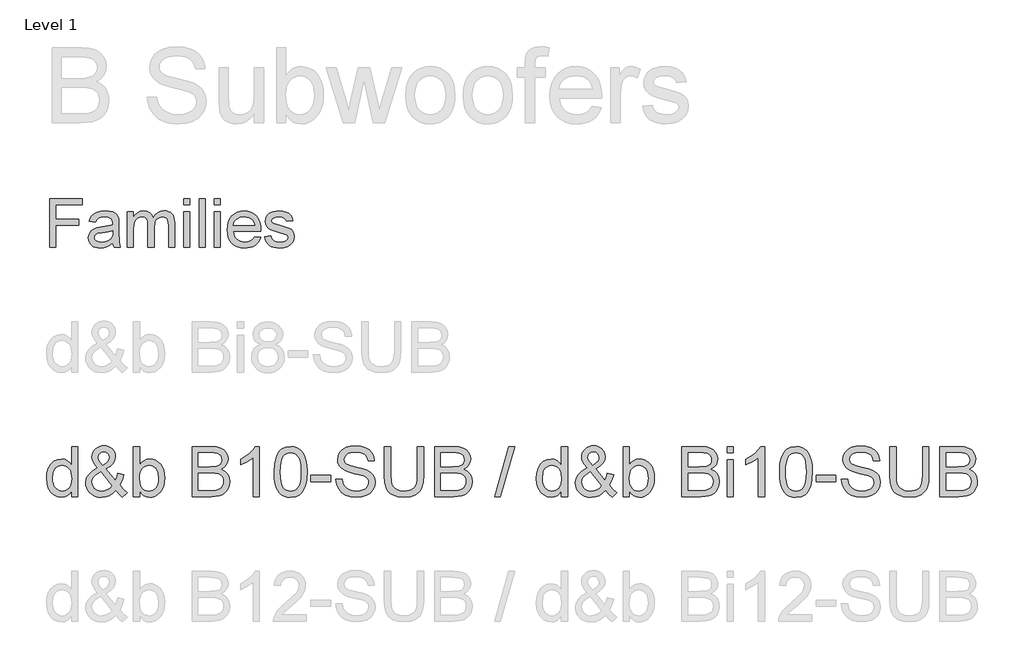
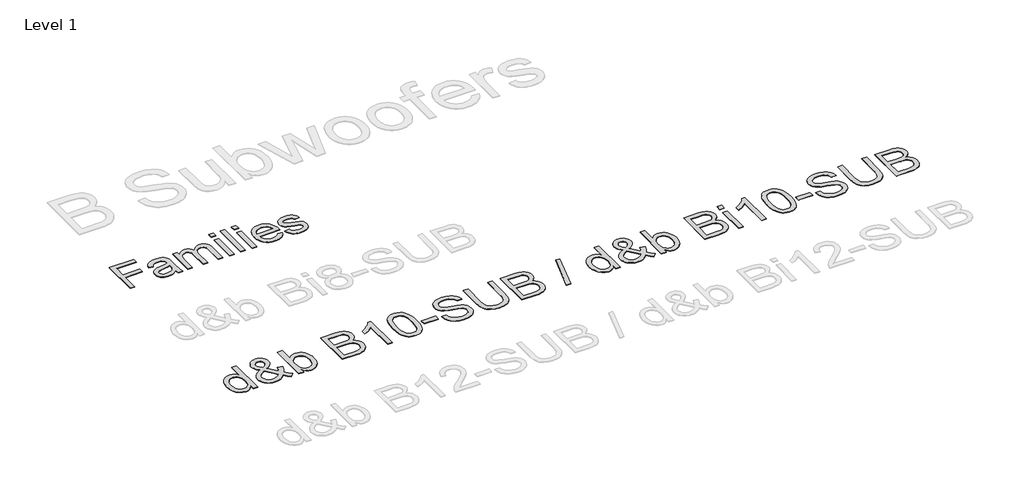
# One storey, part 4 of 55: 2 proxies.
"""IFC4 building model written with IfcOpenShell, lengths in millimetres."""

from ifc_helpers import new_model, si_unit, origin, origin_with_axes, place, context, project, spatial, polyline, outline, extrude, element, save

model = new_model("IFC4")

# Units and contexts
model_context = context("Model", 3, world=origin())
ifc_project = project(units=[si_unit("LENGTHUNIT", "METRE", prefix="MILLI")], contexts=[model_context])

# Site, building, storey
site = spatial("IfcSite", under=ifc_project)
building = spatial("IfcBuilding", under=site)
storey = spatial("IfcBuildingStorey", under=building, Name="Level 1", Elevation=0.0)

# Proxies
placement = place(None, origin())
element("IfcBuildingElementProxy", 1, Name="400mm Arial", ObjectType="400mm Arial", at=placement, inside=storey, context=model_context, shape_type="SweptSolid", body=[
    extrude(outline(polyline([(-21056.720891, -35148.6945164), (-21056.720891, -34756.9369407), (-20793.5087698, -34756.9369407), (-20793.5087698, -34805.9066376), (-21007.7511941, -34805.9066376), (-21007.7511941, -34922.2096679), (-20824.1148304, -34922.2096679), (-20824.1148304, -34971.1793649), (-21007.7511941, -34971.1793649), (-21007.7511941, -35148.6945164), (-21056.720891, -35148.6945164)])), origin_with_axes(), (0.0, 0.0, 1.0), 5.0),
    extrude(outline(polyline([(-20548.660285, -35111.9672437), (-20572.0571836, -35132.02856), (-20596.1475009, -35145.1556907), (-20621.4811893, -35152.4007191), (-20648.6082016, -35154.8157285), (-20670.4120309, -35153.3631362), (-20689.5318522, -35149.0053592), (-20705.9676654, -35141.7423976), (-20719.7194706, -35131.5742513), (-20730.5780466, -35119.1465169), (-20738.3341723, -35105.104791), (-20742.9878477, -35089.4490737), (-20744.5390729, -35072.1793649), (-20742.1957963, -35051.8789388), (-20735.1659668, -35033.4435695), (-20724.3223352, -35017.6623195), (-20710.5376524, -35005.3242513), (-20676.2493001, -34989.2560695), (-20633.879035, -34981.8914861), (-20583.8094327, -34974.144327), (-20548.9472168, -34965.0581528), (-20548.660285, -34954.1547437), (-20552.0317338, -34932.3001035), (-20562.1460804, -34918.0013346), (-20584.7658721, -34907.3848573), (-20616.2805501, -34903.8460316), (-20645.4519516, -34906.2012636), (-20665.8241107, -34913.2669596), (-20679.7163929, -34926.3343128), (-20689.4481638, -34946.6945164), (-20738.4178607, -34940.5733043), (-20729.9175056, -34913.7930013), (-20717.2327282, -34892.7513346), (-20699.1799346, -34876.6592418), (-20674.5755312, -34864.7276604), (-20644.4835568, -34857.339166), (-20609.9680501, -34854.8763346), (-20576.8632916, -34857.0522342), (-20550.6209857, -34863.5799331), (-20530.8346458, -34873.3953924), (-20517.097785, -34885.4345732), (-20507.9876997, -34900.3191613), (-20502.0816865, -34918.6708422), (-20499.690588, -34961.519327), (-20499.690588, -35022.4445164), (-20497.2038456, -35107.5198005), (-20487.4481638, -35148.6945164), (-20536.4178607, -35148.6945164), (-20544.2606638, -35131.6698952), (-20548.660285, -35111.9672437)]), holes=[polyline([(-20548.660285, -35014.0278498), (-20581.5618001, -35022.1814956), (-20627.6621789, -35029.0439482), (-20669.7933342, -35036.9823952), (-20680.7565208, -35042.4101888), (-20688.8743001, -35049.894327), (-20693.8956069, -35058.8609464), (-20695.5693759, -35068.7361831), (-20691.9229507, -35083.2979729), (-20680.9836751, -35095.2295543), (-20662.990659, -35103.1919123), (-20638.1830122, -35105.8460316), (-20611.8809289, -35102.9169359), (-20588.6394516, -35094.129649), (-20569.7975956, -35081.1818507), (-20556.6943759, -35065.771221), (-20550.8840066, -35049.894327), (-20548.9472168, -35027.896221), (-20548.660285, -35014.0278498)])]), origin_with_axes(), (0.0, 0.0, 1.0), 5.0),
    extrude(outline(polyline([(-20432.3572547, -35148.6945164), (-20432.3572547, -34860.9975467), (-20383.3875577, -34860.9975467), (-20383.3875577, -34908.3412967), (-20368.658391, -34886.594256), (-20349.720891, -34869.5576793), (-20327.2206543, -34858.5466708), (-20301.8032774, -34854.8763346), (-20274.5686657, -34858.6184037), (-20252.7379365, -34869.8446111), (-20236.4306448, -34887.8137162), (-20225.7663456, -34911.7844785), (-20207.9167954, -34886.8871656), (-20187.5565918, -34869.1033706), (-20164.6857348, -34858.4330936), (-20139.3042244, -34854.8763346), (-20119.7002057, -34856.3558268), (-20102.4932632, -34860.7943034), (-20087.683397, -34868.1917643), (-20075.2706069, -34878.5482096), (-20065.4581365, -34891.9831942), (-20058.4492291, -34908.6162731), (-20054.2438846, -34928.4474461), (-20052.8421032, -34951.4767134), (-20052.8421032, -35148.6945164), (-20101.8118001, -35148.6945164), (-20101.8118001, -34972.5183801), (-20106.3548872, -34931.630596), (-20112.7391202, -34920.3565666), (-20122.8056448, -34911.4975467), (-20135.7534431, -34905.7589104), (-20150.7814971, -34903.8460316), (-20177.3107348, -34908.7477835), (-20198.9382206, -34923.4530392), (-20207.3279874, -34934.7330463), (-20213.320678, -34948.96606), (-20218.1148304, -34986.2911073), (-20218.1148304, -35148.6945164), (-20267.0845274, -35148.6945164), (-20267.0845274, -34967.0666755), (-20269.9179791, -34939.3777551), (-20278.4183342, -34919.6272816), (-20293.3746552, -34907.7913441), (-20315.5760047, -34903.8460316), (-20334.4417717, -34906.4762399), (-20351.8250577, -34914.3668649), (-20366.1716486, -34927.3266187), (-20375.9273304, -34945.1642134), (-20381.5225009, -34969.9120827), (-20383.3875577, -35003.6026604), (-20383.3875577, -35148.6945164), (-20432.3572547, -35148.6945164)])), origin_with_axes(), (0.0, 0.0, 1.0), 5.0),
    extrude(outline(polyline([(-19979.3875577, -34805.9066376), (-19979.3875577, -34756.9369407), (-19930.4178607, -34756.9369407), (-19930.4178607, -34805.9066376), (-19979.3875577, -34805.9066376)])), origin_with_axes(), (0.0, 0.0, 1.0), 5.0),
    extrude(outline(polyline([(-19979.3875577, -35148.6945164), (-19979.3875577, -34860.9975467), (-19930.4178607, -34860.9975467), (-19930.4178607, -35148.6945164), (-19979.3875577, -35148.6945164)])), origin_with_axes(), (0.0, 0.0, 1.0), 5.0),
    extrude(outline(polyline([(-19856.9633153, -35148.6945164), (-19856.9633153, -34756.9369407), (-19807.9936183, -34756.9369407), (-19807.9936183, -35148.6945164), (-19856.9633153, -35148.6945164)])), origin_with_axes(), (0.0, 0.0, 1.0), 5.0),
    extrude(outline(polyline([(-19734.5390729, -34805.9066376), (-19734.5390729, -34756.9369407), (-19685.5693759, -34756.9369407), (-19685.5693759, -34805.9066376), (-19734.5390729, -34805.9066376)])), origin_with_axes(), (0.0, 0.0, 1.0), 5.0),
    extrude(outline(polyline([(-19734.5390729, -35148.6945164), (-19734.5390729, -34860.9975467), (-19685.5693759, -34860.9975467), (-19685.5693759, -35148.6945164), (-19734.5390729, -35148.6945164)])), origin_with_axes(), (0.0, 0.0, 1.0), 5.0),
    extrude(outline(polyline([(-19410.6886941, -35062.9975467), (-19362.6754365, -35069.1187589), (-19370.0370309, -35088.3491684), (-19379.975034, -35105.2960789), (-19392.4894457, -35119.9594904), (-19407.580266, -35132.3394028), (-19425.0920736, -35142.1727953), (-19444.8694469, -35149.1966471), (-19491.220891, -35154.8157285), (-19521.605775, -35152.3917525), (-19548.6789876, -35145.1198242), (-19572.4405288, -35132.9999437), (-19592.8903986, -35116.0321111), (-19609.3351784, -35094.6885683), (-19621.0814497, -35069.4415571), (-19628.1292125, -35040.2910777), (-19630.4784668, -35007.2371301), (-19628.1053015, -34973.062355), (-19620.9858058, -34942.9404918), (-19609.1199796, -34916.8715406), (-19592.5078229, -34894.8555013), (-19572.1117528, -34877.3646159), (-19548.8941865, -34864.8711263), (-19522.855124, -34857.3750325), (-19493.9945653, -34854.8763346), (-19466.0635461, -34857.3690548), (-19440.8045795, -34864.8472153), (-19418.2176654, -34877.3108161), (-19398.3028039, -34894.7598573), (-19382.0463231, -34916.7280747), (-19370.4345511, -34942.7492039), (-19363.4674879, -34972.8232451), (-19361.1451335, -35006.9501982), (-19361.4320653, -35020.1490619), (-19581.5087698, -35020.1490619), (-19578.6723292, -35039.6903142), (-19573.0323257, -35056.8046017), (-19564.5887592, -35071.4919241), (-19553.3416297, -35083.7522816), (-19524.9234242, -35100.3225941), (-19490.2644516, -35105.8460316), (-19464.2014782, -35103.2875562), (-19442.2511941, -35095.6121301), (-19424.4135994, -35082.3415335), (-19410.6886941, -35062.9975467)]), holes=[polyline([(-19581.5087698, -34971.1793649), (-19410.1148304, -34971.1793649), (-19416.7381732, -34945.3076793), (-19429.721838, -34926.800577), (-19443.076123, -34916.7579634), (-19458.2715539, -34909.5846679), (-19494.1858532, -34903.8460316), (-19527.1949677, -34908.4249852), (-19554.4893569, -34922.161846), (-19573.4627234, -34943.5741329), (-19581.5087698, -34971.1793649)])]), origin_with_axes(), (0.0, 0.0, 1.0), 5.0),
    extrude(outline(polyline([(-19330.5390729, -35062.9975467), (-19281.5693759, -35056.8763346), (-19273.8461278, -35077.8223573), (-19258.9017622, -35093.2210316), (-19236.6406354, -35102.6897816), (-19206.9671032, -35105.8460316), (-19177.6522357, -35102.9528024), (-19157.0409668, -35094.2731149), (-19144.8463645, -35081.6959369), (-19140.7814971, -35067.1102361), (-19144.8702755, -35054.628702), (-19157.1366107, -35045.1121301), (-19207.5409668, -35031.1481149), (-19281.2824441, -35007.1893081), (-19299.9449677, -34995.1501272), (-19313.4666297, -34979.2134558), (-19321.680053, -34960.3955107), (-19324.4178607, -34939.7125089), (-19322.2180501, -34920.7391424), (-19315.6186183, -34903.224346), (-19305.2173399, -34887.8615382), (-19291.6119895, -34875.3441376), (-19260.4798872, -34860.8540808), (-19218.3487319, -34854.8763346), (-19186.4753891, -34857.2793886), (-19158.7625577, -34864.4885505), (-19136.4775198, -34875.7984464), (-19120.8875577, -34890.503702), (-19110.5580122, -34909.6922674), (-19104.0542244, -34934.4520922), (-19153.0239213, -34940.5733043), (-19159.2049109, -34925.1626746), (-19171.4353797, -34913.5538914), (-19189.8348825, -34906.2729965), (-19214.5229744, -34903.8460316), (-19242.6422925, -34906.1653971), (-19261.3885047, -34913.1234937), (-19271.933249, -34923.1661073), (-19275.4481638, -34934.739024), (-19269.6138835, -34948.989971), (-19251.345891, -34959.7977361), (-19209.1669138, -34970.2229255), (-19137.2904933, -34993.2731149), (-19118.3051713, -35004.2960789), (-19103.9107585, -35019.3839104), (-19094.8365397, -35038.5844312), (-19091.8118001, -35061.9454634), (-19095.3625814, -35086.0955581), (-19106.0149251, -35108.8109937), (-19123.3623446, -35128.3104018), (-19146.9983532, -35142.8124142), (-19175.5480691, -35151.8149), (-19207.6366107, -35154.8157285), (-19233.9924938, -35153.369114), (-19257.0127944, -35149.0292702), (-19276.6975127, -35141.7961973), (-19293.0466486, -35131.6698952), (-19306.4009336, -35118.6981859), (-19317.1010994, -35102.9288914), (-19325.1471458, -35084.3620117), (-19330.5390729, -35062.9975467)])), origin_with_axes(), (0.0, 0.0, 1.0), 5.0),
])
element("IfcBuildingElementProxy", 2, Name="400mm Arial", ObjectType="400mm Arial", at=placement, inside=storey, context=model_context, shape_type="SweptSolid", body=[
    extrude(outline(polyline([(-20879.8211974, -37148.6945164), (-20879.8211974, -37101.3113154), (-20894.8491769, -37124.7883181), (-20913.0532043, -37141.5576057), (-20934.4332796, -37151.6191783), (-20958.9894028, -37154.9730358), (-20991.4611202, -37150.1169935), (-21021.1859854, -37135.5488665), (-21046.3491139, -37112.2864616), (-21065.1356211, -37081.3475858), (-21076.8342686, -37043.9830379), (-21080.7338177, -37001.4436165), (-21077.1408369, -36959.4314926), (-21066.3618945, -36921.4905962), (-21048.4092531, -36889.7791682), (-21023.2951755, -36866.4554497), (-20992.9203855, -36852.1080519), (-20959.1856065, -36847.325586), (-20934.6110892, -36850.7468885), (-20912.8815261, -36861.0107962), (-20894.4629008, -36876.7438829), (-20879.8211974, -36896.5727224), (-20879.8211974, -36746.8692758), (-20829.5930424, -36746.8692758), (-20829.5930424, -37148.6945164), (-20879.8211974, -37148.6945164)]), holes=[polyline([(-21030.5056627, -37001.2474128), (-21029.089317, -37025.6042665), (-21024.8402799, -37046.6808392), (-21017.7585515, -37064.4771307), (-21007.8441318, -37078.9931411), (-20983.1469871, -37098.3069458), (-20969.2717046, -37103.135397), (-20954.3786151, -37104.7448807), (-20939.415015, -37103.2089734), (-20925.6225058, -37098.6012514), (-20901.5507606, -37080.1703635), (-20892.0440767, -37066.2613584), (-20885.2535882, -37049.1088603), (-20879.8211974, -37005.0733855), (-20885.3516901, -36956.9298951), (-20892.2648059, -36938.3947739), (-20901.9431681, -36923.5507354), (-20913.6448812, -36912.1770504), (-20926.6280499, -36904.0529896), (-20940.8926743, -36899.1785532), (-20956.4387543, -36897.5537411), (-20971.6261493, -36899.1141738), (-20985.5014319, -36903.7954722), (-20998.064602, -36911.5976362), (-21009.3156597, -36922.5206658), (-21018.586286, -36936.8036843), (-21025.2081619, -36954.6858149), (-21030.5056627, -37001.2474128)])]), origin_with_axes(), (0.0, 0.0, 1.0), 5.0),
    extrude(outline(polyline([(-20523.809528, -37099.0549725), (-20549.3405384, -37123.5191252), (-20577.0788409, -37140.99352), (-20607.0734862, -37151.4781569), (-20639.3735254, -37154.9730358), (-20668.6814577, -37152.3855991), (-20694.8010793, -37144.623289), (-20717.7323904, -37131.6861055), (-20737.4753908, -37113.5740486), (-20750.308341, -37096.2038871), (-20759.4747341, -37077.8404442), (-20764.9745699, -37058.4837198), (-20766.8078485, -37038.1337141), (-20760.9094739, -37002.9396699), (-20743.2143499, -36971.3263438), (-20713.796053, -36943.3182613), (-20672.7281596, -36918.9399477), (-20694.6416638, -36890.5885086), (-20707.7995765, -36868.1231814), (-20714.3846642, -36848.9442668), (-20716.5796934, -36830.4520651), (-20714.8506481, -36812.8979626), (-20709.6635119, -36796.5333452), (-20701.018285, -36781.3582129), (-20688.9149674, -36767.3725657), (-20674.1935562, -36755.6555241), (-20657.6940487, -36747.2862088), (-20639.4164449, -36742.2646195), (-20619.3607448, -36740.5907564), (-20600.212487, -36742.1910431), (-20582.8913764, -36746.9919032), (-20567.397413, -36754.9933366), (-20553.7305969, -36766.1953433), (-20542.5715097, -36779.6414302), (-20534.6007332, -36794.3751041), (-20529.8182672, -36810.396365), (-20528.2241119, -36827.7052129), (-20532.9452642, -36855.68877), (-20547.108721, -36881.563137), (-20570.7144823, -36905.3283139), (-20603.7625482, -36926.9843007), (-20531.069066, -37017.5323224), (-20518.6837055, -36991.6579554), (-20509.3885538, -36961.9085647), (-20459.1603987, -36972.7978718), (-20474.6114425, -37019.3226815), (-20494.6732739, -37055.4977443), (-20466.1256311, -37088.8033276), (-20434.0463211, -37116.3209009), (-20471.7174374, -37154.9730358), (-20497.3465498, -37131.52669), (-20523.809528, -37099.0549725)]), holes=[polyline([(-20557.4584678, -37062.8553842), (-20647.1235727, -36950.9211558), (-20681.3733865, -36972.7733463), (-20702.305872, -36993.0068561), (-20713.0112381, -37012.3329235), (-20716.5796934, -37031.4627873), (-20711.6991256, -37055.1543878), (-20697.0574222, -37079.7289051), (-20686.2784798, -37090.6733944), (-20673.4639236, -37098.4908868), (-20658.6137537, -37103.1813823), (-20641.7279702, -37104.7448807), (-20619.0051256, -37101.8263502), (-20595.5710425, -37093.0707588), (-20574.1480476, -37079.6798541), (-20557.4584678, -37062.8553842)]), polyline([(-20629.1709314, -36895.2973981), (-20602.9041569, -36878.6323438), (-20587.8700461, -36864.1500559), (-20580.8067117, -36850.0601755), (-20578.452267, -36834.5723435), (-20581.5547385, -36817.0243723), (-20590.862153, -36803.0325938), (-20604.829406, -36793.8723321), (-20621.9113933, -36790.8189115), (-20639.3612626, -36793.8478066), (-20653.6473468, -36802.9344919), (-20663.1754905, -36816.3867102), (-20666.3515384, -36832.5122043), (-20662.0350563, -36850.9063041), (-20648.9875082, -36871.360543), (-20629.1709314, -36895.2973981)])]), origin_with_axes(), (0.0, 0.0, 1.0), 5.0),
    extrude(outline(polyline([(-20333.590011, -37148.6945164), (-20383.8181661, -37148.6945164), (-20383.8181661, -36746.8692758), (-20333.590011, -36746.8692758), (-20333.590011, -36895.8860093), (-20317.0721094, -36874.6408241), (-20298.4204923, -36859.4656918), (-20277.6351595, -36850.3606124), (-20254.7161112, -36847.325586), (-20228.8417442, -36850.0601755), (-20204.3898543, -36858.263944), (-20182.758393, -36871.4218567), (-20165.3453119, -36889.0188788), (-20151.6968898, -36910.883332), (-20141.3594058, -36936.8435381), (-20134.8478945, -36965.8203766), (-20132.6773907, -36996.734727), (-20134.9245365, -37032.4070178), (-20141.6659741, -37063.7873519), (-20152.9017034, -37090.8757295), (-20168.6317244, -37113.6721505), (-20187.5132678, -37131.7412878), (-20208.2035643, -37144.6478145), (-20230.702614, -37152.3917305), (-20255.0104168, -37154.9730358), (-20278.6836232, -37151.6437038), (-20299.671291, -37141.6557076), (-20317.9734203, -37125.0090473), (-20333.590011, -37101.7037229), (-20333.590011, -37148.6945164)]), holes=[polyline([(-20333.590011, -36999.0891717), (-20330.1564457, -37040.9786682), (-20319.8557498, -37069.3301073), (-20307.6849872, -37084.8240707), (-20293.5399244, -37095.8911874), (-20277.4205617, -37102.5314574), (-20259.3268989, -37104.7448807), (-20244.3050508, -37103.1139372), (-20230.3377977, -37098.2211067), (-20217.4251396, -37090.0663891), (-20205.5670767, -37078.6497845), (-20195.6526569, -37064.0019498), (-20188.5709285, -37046.1535416), (-20184.3218914, -37025.1045601), (-20182.9055458, -37000.8550053), (-20188.3379366, -36954.8942814), (-20195.1284251, -36937.1010555), (-20204.6351089, -36922.7659205), (-20216.0670419, -36911.735592), (-20228.6332778, -36903.8567859), (-20242.3338164, -36899.1295023), (-20257.1686579, -36897.5537411), (-20272.190506, -36899.1846846), (-20286.1577591, -36904.0775151), (-20299.0704171, -36912.2322327), (-20310.9284801, -36923.6488372), (-20320.8428999, -36938.1495192), (-20327.9246283, -36955.556469), (-20332.1736653, -36975.8696865), (-20333.590011, -36999.0891717)])]), origin_with_axes(), (0.0, 0.0, 1.0), 5.0),
    extrude(outline(polyline([(-19912.9292122, -37148.6945164), (-19912.9292122, -36746.8692758), (-19759.5959966, -36746.8692758), (-19717.4244573, -36749.8245945), (-19684.4990187, -36758.6905506), (-19659.2623138, -36773.6878733), (-19640.1569755, -36795.0372917), (-19628.1272343, -36820.1513693), (-19624.1173206, -36846.4426692), (-19627.4895722, -36870.6370417), (-19637.606327, -36893.3844118), (-19654.5411616, -36913.2868277), (-19678.3676521, -36928.946338), (-19649.9058484, -36943.8087706), (-19628.875261, -36966.4212506), (-19615.8890266, -36995.2877244), (-19611.5602818, -37028.9121388), (-19614.5156005, -37056.9324841), (-19623.3815566, -37082.9172157), (-19636.6130457, -37105.0146609), (-19652.6649634, -37121.3731469), (-19672.3221247, -37133.2189472), (-19696.3693444, -37141.7783349), (-19725.5914376, -37146.965471), (-19760.773219, -37148.6945164), (-19912.9292122, -37148.6945164)]), holes=[polyline([(-19862.7010572, -37098.4663614), (-19759.6940985, -37098.4663614), (-19722.4153897, -37096.504324), (-19690.87564, -37085.5659661), (-19679.2996198, -37076.1359242), (-19669.9799426, -37063.2477917), (-19663.8363133, -37047.4779168), (-19661.7884369, -37029.4026481), (-19664.1919326, -37008.4088489), (-19671.4024197, -36990.3581057), (-19683.9962466, -36976.2436998), (-19702.5497619, -36967.0589127), (-19728.8287991, -36962.0189293), (-19764.5991918, -36960.3389349), (-19862.7010572, -36960.3389349), (-19862.7010572, -37098.4663614)]), polyline([(-19862.7010572, -36910.1107798), (-19770.975813, -36910.1107798), (-19717.4121945, -36905.7942977), (-19698.6624755, -36898.3508187), (-19685.1857318, -36887.2039943), (-19677.0555397, -36872.5255026), (-19674.3454756, -36854.4870222), (-19676.8715987, -36836.9758392), (-19684.4499678, -36821.7209991), (-19696.7372264, -36809.8138852), (-19713.3900181, -36802.3458807), (-19738.945554, -36798.4095434), (-19777.9410455, -36797.0974309), (-19862.7010572, -36797.0974309), (-19862.7010572, -36910.1107798)])]), origin_with_axes(), (0.0, 0.0, 1.0), 5.0),
    extrude(outline(polyline([(-19372.9765452, -37148.6945164), (-19423.2047003, -37148.6945164), (-19423.2047003, -36835.5533621), (-19444.173974, -36852.5127221), (-19470.784105, -36869.4475566), (-19523.6610104, -36894.8068888), (-19523.6610104, -36847.325586), (-19484.2117978, -36825.8658029), (-19450.0355604, -36800.3347925), (-19423.0943357, -36773.1851012), (-19405.3501608, -36746.8692758), (-19372.9765452, -36746.8692758), (-19372.9765452, -37148.6945164)])), origin_with_axes(), (0.0, 0.0, 1.0), 5.0),
    extrude(outline(polyline([(-19253.6846769, -36951.0192577), (-19249.9935942, -36886.7012222), (-19238.9203461, -36835.4062093), (-19220.5752973, -36796.3494042), (-19208.7172343, -36781.1160239), (-19195.0688123, -36768.7459918), (-19179.584046, -36759.1749286), (-19162.2169501, -36752.3384548), (-19121.8357698, -36746.8692758), (-19090.8846313, -36750.1066374), (-19063.1708543, -36759.8187221), (-19039.9942886, -36775.6253851), (-19022.6547839, -36797.1464818), (-19009.5581849, -36824.1980712), (-18999.1103362, -36856.5962123), (-18992.2677311, -36897.7376821), (-18989.9868627, -36951.0192577), (-18993.6411572, -37014.9694112), (-19004.6040407, -37066.1417967), (-19022.8387249, -37105.2353901), (-19034.6691967, -37120.5147556), (-19048.3084217, -37132.949167), (-19063.8115821, -37142.5846096), (-19081.2338603, -37149.4670686), (-19121.8357698, -37154.9730358), (-19149.5004958, -37152.5818028), (-19174.0259622, -37145.4081039), (-19195.4121688, -37133.4519391), (-19213.6591158, -37116.7133083), (-19231.1702988, -37086.4550142), (-19243.6782866, -37048.7532411), (-19251.1830793, -37003.6079889), (-19253.6846769, -36951.0192577)]), holes=[polyline([(-19203.4565218, -36950.9211558), (-19201.9849938, -36994.585683), (-19197.5704099, -37029.9299457), (-19190.21277, -37056.9539439), (-19179.9120741, -37075.6576777), (-19167.4531372, -37088.383329), (-19153.6207742, -37097.47308), (-19138.4149851, -37102.9269305), (-19121.8357698, -37104.7448807), (-19105.2565546, -37102.9207992), (-19090.0507654, -37097.4485545), (-19076.2184024, -37088.3281467), (-19063.7594655, -37075.5595758), (-19053.4587696, -37056.8251852), (-19046.1011297, -37029.8073183), (-19041.6865458, -36994.5059752), (-19040.2150178, -36950.9211558), (-19041.6374949, -36908.4123913), (-19045.904926, -36873.6904623), (-19053.0173112, -36846.7553689), (-19062.9746506, -36827.607111), (-19075.225121, -36814.259126), (-19089.2168996, -36804.7248509), (-19104.9499862, -36799.0042859), (-19122.424381, -36797.0974309), (-19138.9177571, -36798.7774253), (-19153.8660289, -36803.8174087), (-19167.2691962, -36812.2173809), (-19179.1272592, -36823.977342), (-19189.7713116, -36844.8239884), (-19197.3742062, -36872.9301728), (-19201.9359429, -36908.2958953), (-19203.4565218, -36950.9211558)])]), origin_with_axes(), (0.0, 0.0, 1.0), 5.0),
    extrude(outline(polyline([(-18958.5942658, -37029.4026481), (-18958.5942658, -36979.174493), (-18801.6312812, -36979.174493), (-18801.6312812, -37029.4026481), (-18958.5942658, -37029.4026481)])), origin_with_axes(), (0.0, 0.0, 1.0), 5.0),
    extrude(outline(polyline([(-18757.6816455, -37010.56709), (-18707.4534904, -37010.56709), (-18701.6900059, -37038.4402825), (-18691.2666827, -37060.844296), (-18675.0062985, -37078.6252591), (-18651.7316309, -37092.6293004), (-18623.2820899, -37101.7159856), (-18591.4970856, -37104.7448807), (-18563.5135285, -37102.4517496), (-18539.0125876, -37095.5723563), (-18519.1592226, -37084.6830493), (-18505.1183931, -37070.3601769), (-18496.7674718, -37053.9158517), (-18493.9838314, -37036.6621862), (-18496.068496, -37019.849979), (-18502.3224899, -37005.3186402), (-18515.0266815, -36992.9210169), (-18536.4619391, -36982.5099565), (-18609.5968797, -36963.3310418), (-18657.6054801, -36950.639113), (-18688.3236267, -36938.5603208), (-18713.3273396, -36921.6622745), (-18731.0469891, -36901.1835101), (-18741.6052023, -36877.565486), (-18745.1246067, -36851.2496606), (-18740.7713365, -36821.8313637), (-18727.7115256, -36794.3996296), (-18706.2885308, -36771.1494875), (-18676.8457084, -36754.2759667), (-18641.5045114, -36744.012059), (-18602.3863926, -36740.5907564), (-18560.0063868, -36744.1714745), (-18522.9238817, -36754.9136288), (-18492.4632525, -36772.59649), (-18469.9488744, -36796.999329), (-18455.6995784, -36826.6015669), (-18450.0341957, -36859.8826247), (-18500.2623508, -36859.8826247), (-18509.4839261, -36829.9125049), (-18517.8471101, -36818.0544419), (-18528.7118917, -36808.2810436), (-18558.755588, -36795.1844445), (-18600.4243553, -36790.8189115), (-18643.0741413, -36795.1353936), (-18659.377445, -36800.5309962), (-18672.3330226, -36808.0848398), (-18689.2555944, -36827.1411272), (-18694.8964517, -36849.7781326), (-18690.8988007, -36869.0796746), (-18678.9058476, -36884.6042948), (-18650.5544085, -36898.4857088), (-18596.8926882, -36912.6614283), (-18541.5141852, -36926.1259093), (-18508.0123981, -36937.8736077), (-18479.3789162, -36956.0960292), (-18459.4029238, -36978.5858819), (-18447.6674882, -37005.097911), (-18443.7556763, -37035.3868619), (-18448.2560994, -37066.3502632), (-18461.7573686, -37095.4742545), (-18483.707661, -37120.5392811), (-18513.5551535, -37139.3257883), (-18549.4481735, -37151.0612239), (-18589.5350483, -37154.9730358), (-18638.7453965, -37150.7546556), (-18679.2492041, -37138.099515), (-18711.5124551, -37116.958563), (-18736.0011333, -37087.2827487), (-18751.7219572, -37051.1322113), (-18757.6816455, -37010.56709)])), origin_with_axes(), (0.0, 0.0, 1.0), 5.0),
    extrude(outline(polyline([(-18104.7156295, -36746.8692758), (-18054.4874745, -36746.8692758), (-18054.4874745, -36978.6839837), (-18057.8965143, -37032.9711035), (-18068.1236338, -37074.7747609), (-18076.3090082, -37091.7279895), (-18087.228972, -37107.0257491), (-18117.2726683, -37132.6548614), (-18136.4147948, -37142.4190627), (-18158.328299, -37149.3934922), (-18210.4694404, -37154.9730358), (-18261.4701477, -37150.1169935), (-18302.2437355, -37135.5488665), (-18318.7984253, -37124.7484642), (-18332.8024666, -37111.7714268), (-18344.2558593, -37096.6177543), (-18353.1586036, -37079.2874467), (-18364.5997337, -37035.7179557), (-18368.4134437, -36978.6839837), (-18368.4134437, -36746.8692758), (-18318.1852886, -36746.8692758), (-18318.1852886, -36976.9181501), (-18315.7082165, -37022.057271), (-18308.2770002, -37053.4866561), (-18294.8125192, -37075.2530075), (-18274.2356529, -37091.403027), (-18247.4047927, -37101.4094173), (-18215.17833, -37104.7448807), (-18187.4952098, -37103.0955431), (-18164.0917836, -37098.1475303), (-18144.9680512, -37089.9008422), (-18130.1240127, -37078.3554789), (-18119.0078451, -37062.1196202), (-18111.0677253, -37039.8014459), (-18106.3036535, -37011.4009558), (-18104.7156295, -36976.9181501), (-18104.7156295, -36746.8692758)])), origin_with_axes(), (0.0, 0.0, 1.0), 5.0),
    extrude(outline(polyline([(-17966.5882031, -37148.6945164), (-17966.5882031, -36746.8692758), (-17813.2549875, -36746.8692758), (-17771.0834481, -36749.8245945), (-17738.1580096, -36758.6905506), (-17712.9213047, -36773.6878733), (-17693.8159664, -36795.0372917), (-17681.7862252, -36820.1513693), (-17677.7763114, -36846.4426692), (-17681.148563, -36870.6370417), (-17691.2653179, -36893.3844118), (-17708.2001524, -36913.2868277), (-17732.026643, -36928.946338), (-17703.5648393, -36943.8087706), (-17682.5342519, -36966.4212506), (-17669.5480175, -36995.2877244), (-17665.2192726, -37028.9121388), (-17668.1745913, -37056.9324841), (-17677.0405474, -37082.9172157), (-17690.2720365, -37105.0146609), (-17706.3239542, -37121.3731469), (-17725.9811155, -37133.2189472), (-17750.0283353, -37141.7783349), (-17779.2504284, -37146.965471), (-17814.4322099, -37148.6945164), (-17966.5882031, -37148.6945164)]), holes=[polyline([(-17916.360048, -36910.1107798), (-17824.6348039, -36910.1107798), (-17771.0711854, -36905.7942977), (-17752.3214664, -36898.3508187), (-17738.8447226, -36887.2039943), (-17730.7145305, -36872.5255026), (-17728.0044665, -36854.4870222), (-17730.5305895, -36836.9758392), (-17738.1089586, -36821.7209991), (-17750.3962173, -36809.8138852), (-17767.0490089, -36802.3458807), (-17792.6045448, -36798.4095434), (-17831.6000363, -36797.0974309), (-17916.360048, -36797.0974309), (-17916.360048, -36910.1107798)]), polyline([(-17916.360048, -37098.4663614), (-17813.3530894, -37098.4663614), (-17776.0743805, -37096.504324), (-17744.5346308, -37085.5659661), (-17732.9586107, -37076.1359242), (-17723.6389335, -37063.2477917), (-17717.4953042, -37047.4779168), (-17715.4474277, -37029.4026481), (-17717.8509234, -37008.4088489), (-17725.0614105, -36990.3581057), (-17737.6552375, -36976.2436998), (-17756.2087528, -36967.0589127), (-17782.48779, -36962.0189293), (-17818.2581826, -36960.3389349), (-17916.360048, -36960.3389349), (-17916.360048, -37098.4663614)])]), origin_with_axes(), (0.0, 0.0, 1.0), 5.0),
    extrude(outline(polyline([(-17483.1422105, -37148.6945164), (-17370.1288616, -36746.8692758), (-17324.609596, -36746.8692758), (-17437.7210468, -37148.6945164), (-17483.1422105, -37148.6945164)])), origin_with_axes(), (0.0, 0.0, 1.0), 5.0),
    extrude(outline(polyline([(-16949.4680628, -37148.6945164), (-16949.4680628, -37101.3113154), (-16964.4960423, -37124.7883181), (-16982.7000697, -37141.5576057), (-17004.080145, -37151.6191783), (-17028.6362682, -37154.9730358), (-17061.1079856, -37150.1169935), (-17090.8328508, -37135.5488665), (-17115.9959793, -37112.2864616), (-17134.7824865, -37081.3475858), (-17146.481134, -37043.9830379), (-17150.3806831, -37001.4436165), (-17146.7877023, -36959.4314926), (-17136.0087598, -36921.4905962), (-17118.0561185, -36889.7791682), (-17092.9420409, -36866.4554497), (-17062.5672509, -36852.1080519), (-17028.8324719, -36847.325586), (-17004.2579546, -36850.7468885), (-16982.5283915, -36861.0107962), (-16964.1097662, -36876.7438829), (-16949.4680628, -36896.5727224), (-16949.4680628, -36746.8692758), (-16899.2399078, -36746.8692758), (-16899.2399078, -37148.6945164), (-16949.4680628, -37148.6945164)]), holes=[polyline([(-17100.152528, -37001.2474128), (-17098.7361824, -37025.6042665), (-17094.4871453, -37046.6808392), (-17087.4054169, -37064.4771307), (-17077.4909971, -37078.9931411), (-17052.7938525, -37098.3069458), (-17038.91857, -37103.135397), (-17024.0254805, -37104.7448807), (-17009.0618804, -37103.2089734), (-16995.2693712, -37098.6012514), (-16971.197626, -37080.1703635), (-16961.6909421, -37066.2613584), (-16954.9004536, -37049.1088603), (-16949.4680628, -37005.0733855), (-16954.9985555, -36956.9298951), (-16961.9116713, -36938.3947739), (-16971.5900335, -36923.5507354), (-16983.2917466, -36912.1770504), (-16996.2749153, -36904.0529896), (-17010.5395397, -36899.1785532), (-17026.0856197, -36897.5537411), (-17041.2730147, -36899.1141738), (-17055.1482973, -36903.7954722), (-17067.7114674, -36911.5976362), (-17078.9625251, -36922.5206658), (-17088.2331514, -36936.8036843), (-17094.8550273, -36954.6858149), (-17100.152528, -37001.2474128)])]), origin_with_axes(), (0.0, 0.0, 1.0), 5.0),
    extrude(outline(polyline([(-16593.4563934, -37099.0549725), (-16618.9874038, -37123.5191252), (-16646.7257063, -37140.99352), (-16676.7203516, -37151.4781569), (-16709.0203908, -37154.9730358), (-16738.3283231, -37152.3855991), (-16764.4479447, -37144.623289), (-16787.3792558, -37131.6861055), (-16807.1222562, -37113.5740486), (-16819.9552064, -37096.2038871), (-16829.1215995, -37077.8404442), (-16834.6214353, -37058.4837198), (-16836.4547139, -37038.1337141), (-16830.5563393, -37002.9396699), (-16812.8612153, -36971.3263438), (-16783.4429184, -36943.3182613), (-16742.375025, -36918.9399477), (-16764.2885292, -36890.5885086), (-16777.4464419, -36868.1231814), (-16784.0315296, -36848.9442668), (-16786.2265588, -36830.4520651), (-16784.4975135, -36812.8979626), (-16779.3103773, -36796.5333452), (-16770.6651504, -36781.3582129), (-16758.5618328, -36767.3725657), (-16743.8404216, -36755.6555241), (-16727.3409141, -36747.2862088), (-16709.0633103, -36742.2646195), (-16689.0076102, -36740.5907564), (-16669.8593524, -36742.1910431), (-16652.5382418, -36746.9919032), (-16637.0442784, -36754.9933366), (-16623.3774623, -36766.1953433), (-16612.2183751, -36779.6414302), (-16604.2475986, -36794.3751041), (-16599.4651326, -36810.396365), (-16597.8709773, -36827.7052129), (-16602.5921296, -36855.68877), (-16616.7555864, -36881.563137), (-16640.3613477, -36905.3283139), (-16673.4094136, -36926.9843007), (-16600.7159314, -37017.5323224), (-16588.3305709, -36991.6579554), (-16579.0354191, -36961.9085647), (-16528.8072641, -36972.7978718), (-16544.2583079, -37019.3226815), (-16564.3201393, -37055.4977443), (-16535.7724965, -37088.8033276), (-16503.6931865, -37116.3209009), (-16541.3643028, -37154.9730358), (-16566.9934152, -37131.52669), (-16593.4563934, -37099.0549725)]), holes=[polyline([(-16698.8177968, -36895.2973981), (-16672.5510223, -36878.6323438), (-16657.5169115, -36864.1500559), (-16650.4535771, -36850.0601755), (-16648.0991324, -36834.5723435), (-16651.2016039, -36817.0243723), (-16660.5090183, -36803.0325938), (-16674.4762714, -36793.8723321), (-16691.5582587, -36790.8189115), (-16709.008128, -36793.8478066), (-16723.2942122, -36802.9344919), (-16732.8223559, -36816.3867102), (-16735.9984038, -36832.5122043), (-16731.6819217, -36850.9063041), (-16718.6343736, -36871.360543), (-16698.8177968, -36895.2973981)]), polyline([(-16627.1053332, -37062.8553842), (-16716.7704381, -36950.9211558), (-16751.0202519, -36972.7733463), (-16771.9527374, -36993.0068561), (-16782.6581035, -37012.3329235), (-16786.2265588, -37031.4627873), (-16781.345991, -37055.1543878), (-16766.7042876, -37079.7289051), (-16755.9253452, -37090.6733944), (-16743.110789, -37098.4908868), (-16728.2606191, -37103.1813823), (-16711.3748355, -37104.7448807), (-16688.651991, -37101.8263502), (-16665.2179079, -37093.0707588), (-16643.794913, -37079.6798541), (-16627.1053332, -37062.8553842)])]), origin_with_axes(), (0.0, 0.0, 1.0), 5.0),
    extrude(outline(polyline([(-16403.2368764, -37148.6945164), (-16453.4650315, -37148.6945164), (-16453.4650315, -36746.8692758), (-16403.2368764, -36746.8692758), (-16403.2368764, -36895.8860093), (-16386.7189748, -36874.6408241), (-16368.0673576, -36859.4656918), (-16347.2820249, -36850.3606124), (-16324.3629766, -36847.325586), (-16298.4886096, -36850.0601755), (-16274.0367197, -36858.263944), (-16252.4052584, -36871.4218567), (-16234.9921773, -36889.0188788), (-16221.3437552, -36910.883332), (-16211.0062712, -36936.8435381), (-16204.4947599, -36965.8203766), (-16202.3242561, -36996.734727), (-16204.5714019, -37032.4070178), (-16211.3128395, -37063.7873519), (-16222.5485688, -37090.8757295), (-16238.2785897, -37113.6721505), (-16257.1601332, -37131.7412878), (-16277.8504297, -37144.6478145), (-16300.3494794, -37152.3917305), (-16324.6572822, -37154.9730358), (-16348.3304886, -37151.6437038), (-16369.3181564, -37141.6557076), (-16387.6202857, -37125.0090473), (-16403.2368764, -37101.7037229), (-16403.2368764, -37148.6945164)]), holes=[polyline([(-16403.2368764, -36999.0891717), (-16399.8033111, -37040.9786682), (-16389.5026152, -37069.3301073), (-16377.3318526, -37084.8240707), (-16363.1867898, -37095.8911874), (-16347.0674271, -37102.5314574), (-16328.9737643, -37104.7448807), (-16313.9519162, -37103.1139372), (-16299.9846631, -37098.2211067), (-16287.072005, -37090.0663891), (-16275.2139421, -37078.6497845), (-16265.2995223, -37064.0019498), (-16258.2177939, -37046.1535416), (-16253.9687568, -37025.1045601), (-16252.5524112, -37000.8550053), (-16257.984802, -36954.8942814), (-16264.7752905, -36937.1010555), (-16274.2819743, -36922.7659205), (-16285.7139073, -36911.735592), (-16298.2801432, -36903.8567859), (-16311.9806818, -36899.1295023), (-16326.8155233, -36897.5537411), (-16341.8373714, -36899.1846846), (-16355.8046245, -36904.0775151), (-16368.7172825, -36912.2322327), (-16380.5753455, -36923.6488372), (-16390.4897653, -36938.1495192), (-16397.5714937, -36955.556469), (-16401.8205307, -36975.8696865), (-16403.2368764, -36999.0891717)])]), origin_with_axes(), (0.0, 0.0, 1.0), 5.0),
    extrude(outline(polyline([(-15982.5760776, -37148.6945164), (-15982.5760776, -36746.8692758), (-15829.242862, -36746.8692758), (-15787.0713227, -36749.8245945), (-15754.1458841, -36758.6905506), (-15728.9091792, -36773.6878733), (-15709.8038409, -36795.0372917), (-15697.7740997, -36820.1513693), (-15693.764186, -36846.4426692), (-15697.1364376, -36870.6370417), (-15707.2531924, -36893.3844118), (-15724.188027, -36913.2868277), (-15748.0145175, -36928.946338), (-15719.5527138, -36943.8087706), (-15698.5221264, -36966.4212506), (-15685.535892, -36995.2877244), (-15681.2071472, -37028.9121388), (-15684.1624659, -37056.9324841), (-15693.028422, -37082.9172157), (-15706.2599111, -37105.0146609), (-15722.3118288, -37121.3731469), (-15741.9689901, -37133.2189472), (-15766.0162098, -37141.7783349), (-15795.238303, -37146.965471), (-15830.4200844, -37148.6945164), (-15982.5760776, -37148.6945164)]), holes=[polyline([(-15932.3479226, -36910.1107798), (-15840.6226784, -36910.1107798), (-15787.0590599, -36905.7942977), (-15768.3093409, -36898.3508187), (-15754.8325972, -36887.2039943), (-15746.7024051, -36872.5255026), (-15743.992341, -36854.4870222), (-15746.5184641, -36836.9758392), (-15754.0968332, -36821.7209991), (-15766.3840918, -36809.8138852), (-15783.0368835, -36802.3458807), (-15808.5924194, -36798.4095434), (-15847.5879109, -36797.0974309), (-15932.3479226, -36797.0974309), (-15932.3479226, -36910.1107798)]), polyline([(-15932.3479226, -37098.4663614), (-15829.3409639, -37098.4663614), (-15792.0622551, -37096.504324), (-15760.5225053, -37085.5659661), (-15748.9464852, -37076.1359242), (-15739.626808, -37063.2477917), (-15733.4831787, -37047.4779168), (-15731.4353023, -37029.4026481), (-15733.838798, -37008.4088489), (-15741.0492851, -36990.3581057), (-15753.643112, -36976.2436998), (-15772.1966273, -36967.0589127), (-15798.4756645, -36962.0189293), (-15834.2460572, -36960.3389349), (-15932.3479226, -36960.3389349), (-15932.3479226, -37098.4663614)])]), origin_with_axes(), (0.0, 0.0, 1.0), 5.0),
    extrude(outline(polyline([(-15618.4219533, -37148.6945164), (-15618.4219533, -36853.6041054), (-15568.1937983, -36853.6041054), (-15568.1937983, -37148.6945164), (-15618.4219533, -37148.6945164)])), origin_with_axes(), (0.0, 0.0, 1.0), 5.0),
    extrude(outline(polyline([(-15618.4219533, -36797.0974309), (-15618.4219533, -36746.8692758), (-15568.1937983, -36746.8692758), (-15568.1937983, -36797.0974309), (-15618.4219533, -36797.0974309)])), origin_with_axes(), (0.0, 0.0, 1.0), 5.0),
    extrude(outline(polyline([(-15317.0530229, -37148.6945164), (-15367.281178, -37148.6945164), (-15367.281178, -36835.5533621), (-15388.2504517, -36852.5127221), (-15414.8605827, -36869.4475566), (-15467.7374881, -36894.8068888), (-15467.7374881, -36847.325586), (-15428.2882755, -36825.8658029), (-15394.1120382, -36800.3347925), (-15367.1708134, -36773.1851012), (-15349.4266385, -36746.8692758), (-15317.0530229, -36746.8692758), (-15317.0530229, -37148.6945164)])), origin_with_axes(), (0.0, 0.0, 1.0), 5.0),
    extrude(outline(polyline([(-15197.7611546, -36951.0192577), (-15194.0700719, -36886.7012222), (-15182.9968239, -36835.4062093), (-15164.651775, -36796.3494042), (-15152.793712, -36781.1160239), (-15139.14529, -36768.7459918), (-15123.6605237, -36759.1749286), (-15106.2934279, -36752.3384548), (-15065.9122475, -36746.8692758), (-15034.961109, -36750.1066374), (-15007.247332, -36759.8187221), (-14984.0707663, -36775.6253851), (-14966.7312616, -36797.1464818), (-14953.6346626, -36824.1980712), (-14943.1868139, -36856.5962123), (-14936.3442088, -36897.7376821), (-14934.0633404, -36951.0192577), (-14937.7176349, -37014.9694112), (-14948.6805184, -37066.1417967), (-14966.9152026, -37105.2353901), (-14978.7456744, -37120.5147556), (-14992.3848994, -37132.949167), (-15007.8880598, -37142.5846096), (-15025.310338, -37149.4670686), (-15065.9122475, -37154.9730358), (-15093.5769736, -37152.5818028), (-15118.1024399, -37145.4081039), (-15139.4886466, -37133.4519391), (-15157.7355935, -37116.7133083), (-15175.2467765, -37086.4550142), (-15187.7547643, -37048.7532411), (-15195.259557, -37003.6079889), (-15197.7611546, -36951.0192577)]), holes=[polyline([(-15147.5329995, -36950.9211558), (-15146.0614715, -36994.585683), (-15141.6468876, -37029.9299457), (-15134.2892477, -37056.9539439), (-15123.9885518, -37075.6576777), (-15111.5296149, -37088.383329), (-15097.6972519, -37097.47308), (-15082.4914628, -37102.9269305), (-15065.9122475, -37104.7448807), (-15049.3330323, -37102.9207992), (-15034.1272431, -37097.4485545), (-15020.2948801, -37088.3281467), (-15007.8359432, -37075.5595758), (-14997.5352474, -37056.8251852), (-14990.1776074, -37029.8073183), (-14985.7630235, -36994.5059752), (-14984.2914955, -36950.9211558), (-14985.7139726, -36908.4123913), (-14989.9814037, -36873.6904623), (-14997.093789, -36846.7553689), (-15007.0511283, -36827.607111), (-15019.3015987, -36814.259126), (-15033.2933773, -36804.7248509), (-15049.0264639, -36799.0042859), (-15066.5008587, -36797.0974309), (-15082.9942348, -36798.7774253), (-15097.9425066, -36803.8174087), (-15111.3456739, -36812.2173809), (-15123.2037369, -36823.977342), (-15133.8477893, -36844.8239884), (-15141.4506839, -36872.9301728), (-15146.0124206, -36908.2958953), (-15147.5329995, -36950.9211558)])]), origin_with_axes(), (0.0, 0.0, 1.0), 5.0),
    extrude(outline(polyline([(-14902.6707435, -37029.4026481), (-14902.6707435, -36979.174493), (-14745.7077589, -36979.174493), (-14745.7077589, -37029.4026481), (-14902.6707435, -37029.4026481)])), origin_with_axes(), (0.0, 0.0, 1.0), 5.0),
    extrude(outline(polyline([(-14701.7581232, -37010.56709), (-14651.5299682, -37010.56709), (-14645.7664836, -37038.4402825), (-14635.3431604, -37060.844296), (-14619.0827762, -37078.6252591), (-14595.8081086, -37092.6293004), (-14567.3585677, -37101.7159856), (-14535.5735633, -37104.7448807), (-14507.5900062, -37102.4517496), (-14483.0890653, -37095.5723563), (-14463.2357003, -37084.6830493), (-14449.1948708, -37070.3601769), (-14440.8439495, -37053.9158517), (-14438.0603091, -37036.6621862), (-14440.1449737, -37019.849979), (-14446.3989676, -37005.3186402), (-14459.1031592, -36992.9210169), (-14480.5384168, -36982.5099565), (-14553.6733574, -36963.3310418), (-14601.6819578, -36950.639113), (-14632.4001044, -36938.5603208), (-14657.4038173, -36921.6622745), (-14675.1234668, -36901.1835101), (-14685.68168, -36877.565486), (-14689.2010845, -36851.2496606), (-14684.8478142, -36821.8313637), (-14671.7880034, -36794.3996296), (-14650.3650085, -36771.1494875), (-14620.9221862, -36754.2759667), (-14585.5809892, -36744.012059), (-14546.4628703, -36740.5907564), (-14504.0828645, -36744.1714745), (-14467.0003594, -36754.9136288), (-14436.5397302, -36772.59649), (-14414.0253521, -36796.999329), (-14399.7760561, -36826.6015669), (-14394.1106734, -36859.8826247), (-14444.3388285, -36859.8826247), (-14453.5604038, -36829.9125049), (-14461.9235878, -36818.0544419), (-14472.7883694, -36808.2810436), (-14502.8320657, -36795.1844445), (-14544.500833, -36790.8189115), (-14587.150619, -36795.1353936), (-14603.4539228, -36800.5309962), (-14616.4095003, -36808.0848398), (-14633.3320721, -36827.1411272), (-14638.9729294, -36849.7781326), (-14634.9752784, -36869.0796746), (-14622.9823253, -36884.6042948), (-14594.6308862, -36898.4857088), (-14540.9691659, -36912.6614283), (-14485.5906629, -36926.1259093), (-14452.0888758, -36937.8736077), (-14423.4553939, -36956.0960292), (-14403.4794015, -36978.5858819), (-14391.7439659, -37005.097911), (-14387.832154, -37035.3868619), (-14392.3325771, -37066.3502632), (-14405.8338463, -37095.4742545), (-14427.7841387, -37120.5392811), (-14457.6316312, -37139.3257883), (-14493.5246512, -37151.0612239), (-14533.611526, -37154.9730358), (-14582.8218742, -37150.7546556), (-14623.3256819, -37138.099515), (-14655.5889328, -37116.958563), (-14680.077611, -37087.2827487), (-14695.7984349, -37051.1322113), (-14701.7581232, -37010.56709)])), origin_with_axes(), (0.0, 0.0, 1.0), 5.0),
    extrude(outline(polyline([(-14048.7921073, -36746.8692758), (-13998.5639522, -36746.8692758), (-13998.5639522, -36978.6839837), (-14001.972992, -37032.9711035), (-14012.2001115, -37074.7747609), (-14020.3854859, -37091.7279895), (-14031.3054498, -37107.0257491), (-14061.349146, -37132.6548614), (-14080.4912725, -37142.4190627), (-14102.4047767, -37149.3934922), (-14154.5459181, -37154.9730358), (-14205.5466254, -37150.1169935), (-14246.3202132, -37135.5488665), (-14262.874903, -37124.7484642), (-14276.8789443, -37111.7714268), (-14288.332337, -37096.6177543), (-14297.2350813, -37079.2874467), (-14308.6762114, -37035.7179557), (-14312.4899214, -36978.6839837), (-14312.4899214, -36746.8692758), (-14262.2617663, -36746.8692758), (-14262.2617663, -36976.9181501), (-14259.7846942, -37022.057271), (-14252.3534779, -37053.4866561), (-14238.8889969, -37075.2530075), (-14218.3121306, -37091.403027), (-14191.4812705, -37101.4094173), (-14159.2548077, -37104.7448807), (-14131.5716875, -37103.0955431), (-14108.1682613, -37098.1475303), (-14089.0445289, -37089.9008422), (-14074.2004904, -37078.3554789), (-14063.0843228, -37062.1196202), (-14055.144203, -37039.8014459), (-14050.3801312, -37011.4009558), (-14048.7921073, -36976.9181501), (-14048.7921073, -36746.8692758)])), origin_with_axes(), (0.0, 0.0, 1.0), 5.0),
    extrude(outline(polyline([(-13910.6646808, -37148.6945164), (-13910.6646808, -36746.8692758), (-13757.3314652, -36746.8692758), (-13715.1599258, -36749.8245945), (-13682.2344873, -36758.6905506), (-13656.9977824, -36773.6878733), (-13637.8924441, -36795.0372917), (-13625.8627029, -36820.1513693), (-13621.8527891, -36846.4426692), (-13625.2250407, -36870.6370417), (-13635.3417956, -36893.3844118), (-13652.2766301, -36913.2868277), (-13676.1031207, -36928.946338), (-13647.641317, -36943.8087706), (-13626.6107296, -36966.4212506), (-13613.6244952, -36995.2877244), (-13609.2957504, -37028.9121388), (-13612.251069, -37056.9324841), (-13621.1170251, -37082.9172157), (-13634.3485142, -37105.0146609), (-13650.4004319, -37121.3731469), (-13670.0575932, -37133.2189472), (-13694.104813, -37141.7783349), (-13723.3269061, -37146.965471), (-13758.5086876, -37148.6945164), (-13910.6646808, -37148.6945164)]), holes=[polyline([(-13860.4365257, -37098.4663614), (-13757.4295671, -37098.4663614), (-13720.1508582, -37096.504324), (-13688.6111085, -37085.5659661), (-13677.0350884, -37076.1359242), (-13667.7154112, -37063.2477917), (-13661.5717819, -37047.4779168), (-13659.5239054, -37029.4026481), (-13661.9274011, -37008.4088489), (-13669.1378882, -36990.3581057), (-13681.7317152, -36976.2436998), (-13700.2852305, -36967.0589127), (-13726.5642677, -36962.0189293), (-13762.3346603, -36960.3389349), (-13860.4365257, -36960.3389349), (-13860.4365257, -37098.4663614)]), polyline([(-13860.4365257, -36910.1107798), (-13768.7112816, -36910.1107798), (-13715.1476631, -36905.7942977), (-13696.3979441, -36898.3508187), (-13682.9212003, -36887.2039943), (-13674.7910082, -36872.5255026), (-13672.0809442, -36854.4870222), (-13674.6070672, -36836.9758392), (-13682.1854363, -36821.7209991), (-13694.472695, -36809.8138852), (-13711.1254866, -36802.3458807), (-13736.6810225, -36798.4095434), (-13775.676514, -36797.0974309), (-13860.4365257, -36797.0974309), (-13860.4365257, -36910.1107798)])]), origin_with_axes(), (0.0, 0.0, 1.0), 5.0),
])

save(model, "model.ifc")
